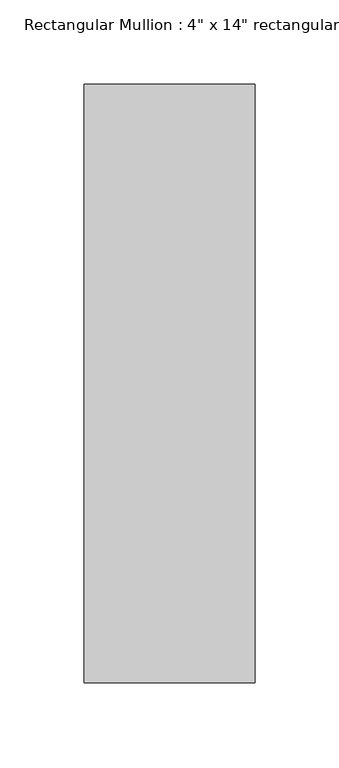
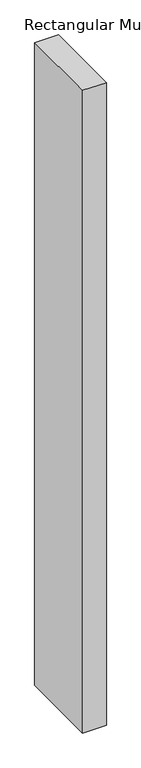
"""IFC4 building model written with IfcOpenShell, lengths in millimetres: member geometry."""

from ifc_helpers import new_model, si_unit, frame, origin, place, context, project, spatial, polyline, outline, extrude, source, transform, mapped, element, save


def member_64709c9d(model_context):
    return source(origin(), model_context, "Body", "SweptSolid", [
        extrude(outline(polyline([(50.8, 342.9), (50.8, -12.7), (-50.8, -12.7), (-50.8, 342.9), (50.8, 342.9)])), frame((0.0, 0.0, -2911.6347058), z_axis=(0.0, 0.0, 1.0), x_axis=(1.0, 0.0, 0.0)), (0.0, 0.0, 1.0), 2911.6347058),
    ])


if __name__ == "__main__":
    model = new_model("IFC4")
    model_context = context("Model", 3, world=origin())
    ifc_project = project(units=[si_unit("LENGTHUNIT", "METRE", prefix="MILLI")], contexts=[model_context])
    site = spatial("IfcSite", under=ifc_project)
    building = spatial("IfcBuilding", under=site)
    placement = place(None, origin())
    member_shape = member_64709c9d(model_context)
    element("IfcMember", 1, ObjectType="Rectangular Mullion : 4\" x 14\" rectangular", at=placement, inside=building, context=model_context, shape_type="MappedRepresentation", body=[
        mapped(member_shape, transform((0.0, 0.0, 0.0), x_axis=(1.0, 0.0, 0.0), y_axis=(0.0, 1.0, 0.0), z_axis=(0.0, 0.0, 1.0))),
    ])
    save(model, "model.ifc")
